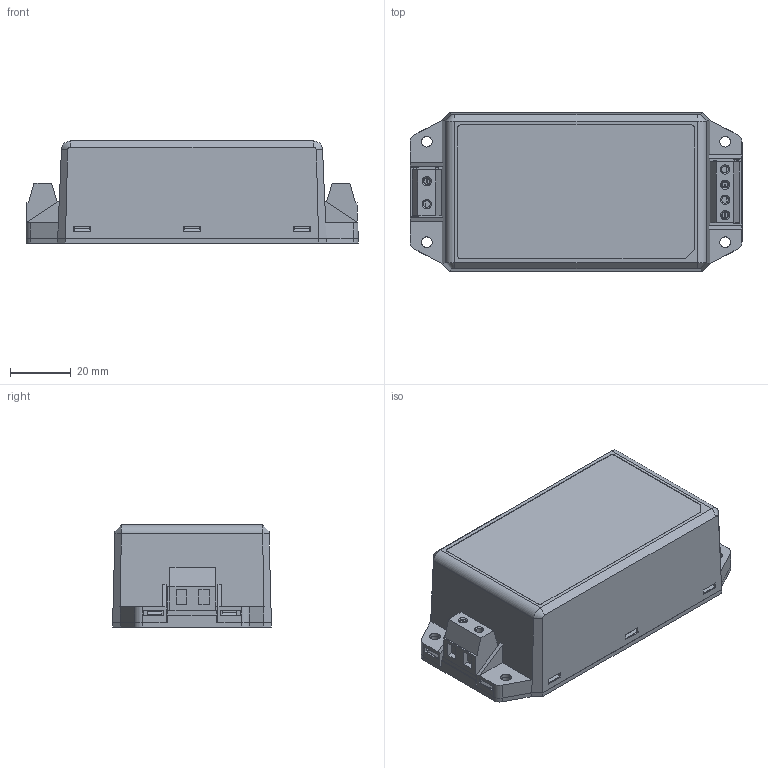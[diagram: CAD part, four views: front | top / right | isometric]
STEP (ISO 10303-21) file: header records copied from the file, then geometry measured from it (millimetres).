
FILE_DESCRIPTION(('Creo Elements/Direct Modeling STEP Export'),'2;1');
FILE_NAME('IRM-60ST.stp','2015-06-18T15:22:40',(''),(''),'PTC Creo Elements/Direct Modeling STEP processor for AP214 (Solid Model)','PTC Creo Elements/Direct Modeling 19.0 09-May-2014 (C) Parametric Technology GmbH','');
FILE_SCHEMA(('AUTOMOTIVE_DESIGN { 1 0 10303 214 1 1 1 1 }'));
Length unit declared in the file: millimetre
Products named in the file (2): 上蓋; IRM-60ST
Assembly tree (1 placements, depth 2):
  IRM-60ST
    上蓋
Bounding box: 109 x 52.13 x 33.5 mm (x, y, z)
Volume: 42538.9 mm3; surface area: 50967.1 mm2
Topology: 1 solids, 1 shells, 772 faces, 2168 edges, 1419 vertices
Faces by surface type: plane 555, cylinder 163, cone 28, bspline 22, extrusion 4
Entity records: 26037 total; most frequent: CARTESIAN_POINT 6850, ORIENTED_EDGE 4336, DIRECTION 3457, EDGE_CURVE 2168, VECTOR 1593, LINE 1589, VERTEX_POINT 1419, AXIS2_PLACEMENT_3D 932
